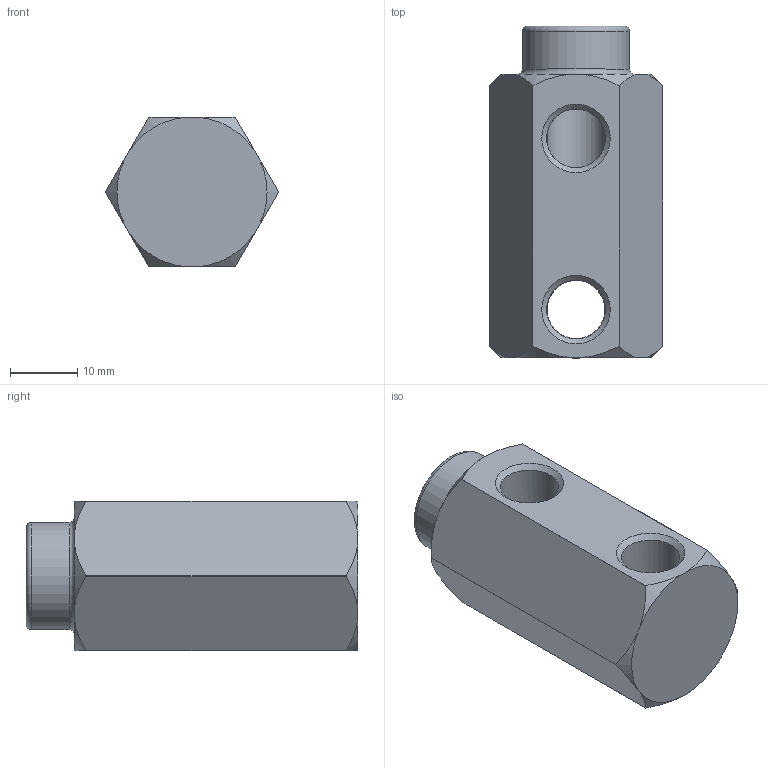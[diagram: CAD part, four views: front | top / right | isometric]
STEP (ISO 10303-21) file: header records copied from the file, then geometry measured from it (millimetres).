
FILE_DESCRIPTION(/* description */ (''),/* implementation_level */ '2;1');
FILE_NAME(/* name */ 'C:/Users/drich/Desktop/181H-HFT v1.step',/* time_stamp */ '2020-01-10T20:25:56-06:00',/* author */ (''),/* organization */ (''),/* preprocessor_version */ 'ST-DEVELOPER v18',/* originating_system */ 'Autodesk Translation Framework v8.12.0.6',/* authorisation */ '');
FILE_SCHEMA (('AUTOMOTIVE_DESIGN { 1 0 10303 214 3 1 1 }'));
Length unit declared in the file: inch
Products named in the file (2): 181H-HFT; 181H
Assembly tree (1 placements, depth 2):
  181H-HFT
    181H
Bounding box: 25.65 x 49.2 x 22.23 mm (x, y, z)
Volume: 15785.2 mm3; surface area: 5737.8 mm2
Topology: 1 solids, 1 shells, 44 faces, 126 edges, 84 vertices
Faces by surface type: cone 21, cylinder 12, plane 9, torus 2
Full cylindrical faces by diameter (mm): 5.474 x1, 8.707 x4, 15.875 x1
Entity records: 1564 total; most frequent: CARTESIAN_POINT 369, ORIENTED_EDGE 252, DIRECTION 245, EDGE_CURVE 126, AXIS2_PLACEMENT_3D 105, VERTEX_POINT 84, CIRCLE 56, EDGE_LOOP 50
